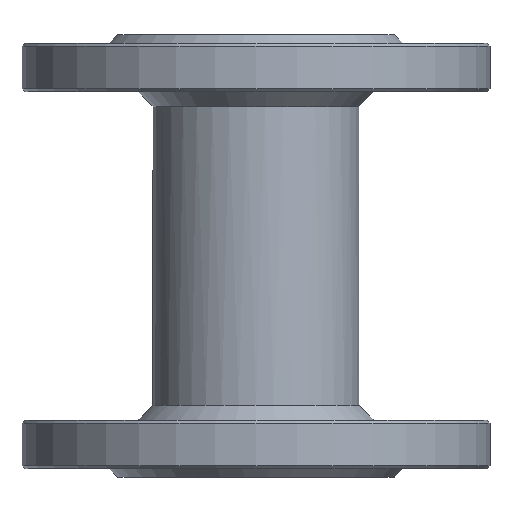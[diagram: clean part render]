
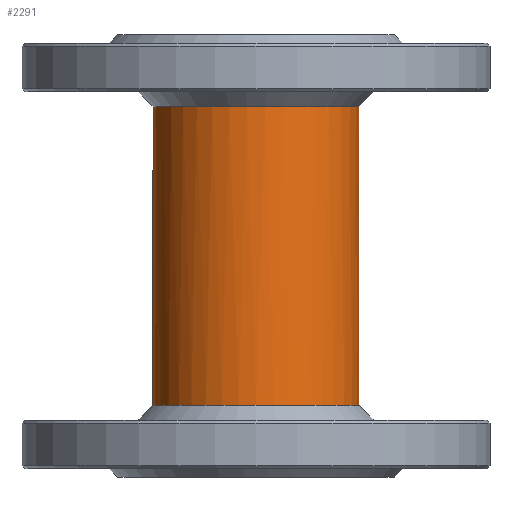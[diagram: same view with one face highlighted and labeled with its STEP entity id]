
A CAD part, left-side view. The second image highlights one B-rep face of the part: STEP entity #2291.
In plain terms, the highlighted cylindrical face has radius 35 mm (diameter 70 mm), a full revolution.
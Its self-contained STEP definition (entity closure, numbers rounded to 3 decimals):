
#2291=ADVANCED_FACE('',(#4069,#4070,#4071),#2814,.T.);
#2814=CYLINDRICAL_SURFACE('',#9831,35.);
#3001=LINE('',#13338,#3441);
#3002=LINE('',#13347,#3442);
#3441=VECTOR('',#10853,1.);
#3442=VECTOR('',#10854,1.);
#3881=B_SPLINE_CURVE_WITH_KNOTS('',3,(#13330,#13331,#13332,#13333,#13334,
#13335),.UNSPECIFIED.,.F.,.F.,(4,2,4),(0.,0.5,1.),.UNSPECIFIED.);
#3882=B_SPLINE_CURVE_WITH_KNOTS('',3,(#13340,#13341,#13342,#13343,#13344,
#13345),.UNSPECIFIED.,.F.,.F.,(4,2,4),(0.,0.5,1.),.UNSPECIFIED.);
#4069=FACE_BOUND('',#4340,.T.);
#4070=FACE_BOUND('',#4341,.T.);
#4071=FACE_BOUND('',#4342,.T.);
#4340=EDGE_LOOP('',(#5013));
#4341=EDGE_LOOP('',(#5014));
#4342=EDGE_LOOP('',(#5015,#5016,#5017,#5018));
#5013=ORIENTED_EDGE('',*,*,#8129,.T.);
#5014=ORIENTED_EDGE('',*,*,#8130,.T.);
#5015=ORIENTED_EDGE('',*,*,#8131,.T.);
#5016=ORIENTED_EDGE('',*,*,#8132,.T.);
#5017=ORIENTED_EDGE('',*,*,#8133,.T.);
#5018=ORIENTED_EDGE('',*,*,#8134,.T.);
#7347=VERTEX_POINT('',#13327);
#7348=VERTEX_POINT('',#13329);
#7349=VERTEX_POINT('',#13336);
#7350=VERTEX_POINT('',#13337);
#7351=VERTEX_POINT('',#13339);
#7352=VERTEX_POINT('',#13346);
#8129=EDGE_CURVE('',#7347,#7347,#9296,.T.);
#8130=EDGE_CURVE('',#7348,#7348,#9297,.T.);
#8131=EDGE_CURVE('',#7349,#7350,#3881,.T.);
#8132=EDGE_CURVE('',#7350,#7351,#3001,.T.);
#8133=EDGE_CURVE('',#7351,#7352,#3882,.T.);
#8134=EDGE_CURVE('',#7352,#7349,#3002,.T.);
#9296=CIRCLE('',#9829,35.);
#9297=CIRCLE('',#9830,35.);
#9829=AXIS2_PLACEMENT_3D('',#13326,#10849,#10850);
#9830=AXIS2_PLACEMENT_3D('',#13328,#10851,#10852);
#9831=AXIS2_PLACEMENT_3D('',#13348,#10855,#10856);
#10849=DIRECTION('',(0.,0.,1.));
#10850=DIRECTION('',(-1.,0.,0.));
#10851=DIRECTION('',(0.,0.,-1.));
#10852=DIRECTION('',(0.707,0.707,0.));
#10853=DIRECTION('',(0.,0.,1.));
#10854=DIRECTION('',(0.,0.,-1.));
#10855=DIRECTION('',(0.,0.,1.));
#10856=DIRECTION('',(0.707,0.707,0.));
#13326=CARTESIAN_POINT('',(0.,0.,-123.));
#13327=CARTESIAN_POINT('',(-35.,0.,-123.));
#13328=CARTESIAN_POINT('',(0.,0.,-21.8));
#13329=CARTESIAN_POINT('',(24.749,24.749,-21.8));
#13330=CARTESIAN_POINT('',(34.,8.307,-92.16));
#13331=CARTESIAN_POINT('',(34.55,6.055,-94.184));
#13332=CARTESIAN_POINT('',(35.,3.033,-95.322));
#13333=CARTESIAN_POINT('',(35.,-3.032,-95.323));
#13334=CARTESIAN_POINT('',(34.55,-6.056,-94.184));
#13335=CARTESIAN_POINT('',(34.,-8.307,-92.16));
#13336=CARTESIAN_POINT('',(34.,8.307,-92.16));
#13337=CARTESIAN_POINT('',(34.,-8.307,-92.16));
#13338=CARTESIAN_POINT('',(34.,-8.307,-118.));
#13339=CARTESIAN_POINT('',(34.,-8.307,-74.64));
#13340=CARTESIAN_POINT('',(34.,-8.307,-74.64));
#13341=CARTESIAN_POINT('',(34.55,-6.055,-72.616));
#13342=CARTESIAN_POINT('',(35.,-3.033,-71.478));
#13343=CARTESIAN_POINT('',(35.,3.032,-71.477));
#13344=CARTESIAN_POINT('',(34.55,6.056,-72.616));
#13345=CARTESIAN_POINT('',(34.,8.307,-74.64));
#13346=CARTESIAN_POINT('',(34.,8.307,-74.64));
#13347=CARTESIAN_POINT('',(34.,8.307,-118.));
#13348=CARTESIAN_POINT('',(0.,0.,-118.));
